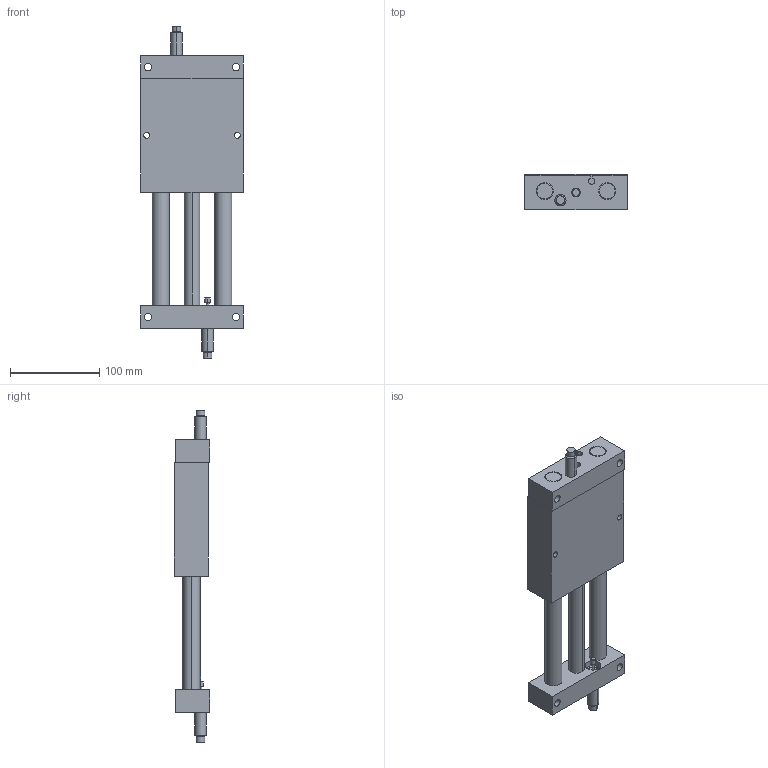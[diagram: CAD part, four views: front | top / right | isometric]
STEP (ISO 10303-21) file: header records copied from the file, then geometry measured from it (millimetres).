
FILE_DESCRIPTION (( 'STEP AP203' ), '1' );
FILE_NAME ('AGSL-5 with SHOCKS in IN.STEP', '2014-11-07T16:58:12', ( 'setup' ), ( '' ), 'SwSTEP 2.0', 'SolidWorks 2013', '' );
FILE_SCHEMA (( 'CONFIG_CONTROL_DESIGN' ));
Length unit declared in the file: inch
Products named in the file (6): AGSL-5 GUIDE ROD; AGSL-5 SHOCK; AGSL-5 with SHOCKS in IN; AGSL-5 BODY; AGSL-5 END SUPPORT; AGSL-5 PISTON ROD
Assembly tree (8 placements, depth 2):
  AGSL-5 with SHOCKS in IN
    AGSL-5 BODY
    AGSL-5 END SUPPORT  x2
    AGSL-5 PISTON ROD
    AGSL-5 GUIDE ROD  x2
    AGSL-5 SHOCK  x2
Bounding box: 114.3 x 39.7 x 371.07 mm (x, y, z)
Volume: 854001.1 mm3; surface area: 174764.6 mm2
Topology: 8 solids, 8 shells, 192 faces, 444 edges, 286 vertices
Faces by surface type: cylinder 110, plane 58, cone 24
Entity records: 4390 total; most frequent: CARTESIAN_POINT 747, DIRECTION 678, ORIENTED_EDGE 548, AXIS2_PLACEMENT_3D 280, EDGE_CURVE 274, VERTEX_POINT 179, EDGE_LOOP 165, CIRCLE 148
